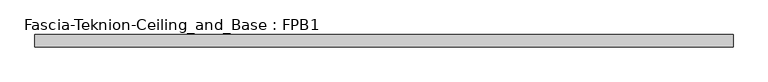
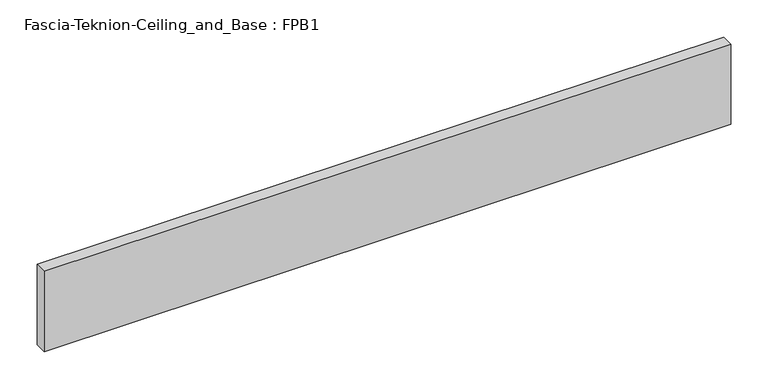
"""IFC4 building model written with IfcOpenShell, lengths in millimetres: proxy geometry, Fascia-Teknion-Ceiling_and_Base : FPB1."""

from ifc_helpers import new_model, si_unit, origin, origin_with_axes, place, context, project, spatial, polyline, outline, extrude, source, transform, mapped, element, save


def fascia_teknion_ceiling_and_base_fpb1_d3fc623d(model_context):
    return source(origin(), model_context, "Body", "SweptSolid", [
        extrude(outline(polyline([(535.9300781, 0.0), (535.9300781, -19.05), (-535.9300781, -19.05), (-535.9300781, 0.0), (535.9300781, 0.0)])), origin_with_axes(), (0.0, 0.0, 1.0), 132.08),
    ])


if __name__ == "__main__":
    model = new_model("IFC4")
    model_context = context("Model", 3, world=origin())
    ifc_project = project(units=[si_unit("LENGTHUNIT", "METRE", prefix="MILLI")], contexts=[model_context])
    site = spatial("IfcSite", under=ifc_project)
    building = spatial("IfcBuilding", under=site)
    placement = place(None, origin())
    fascia_teknion_ceiling_and_base_fpb1_shape = fascia_teknion_ceiling_and_base_fpb1_d3fc623d(model_context)
    element("IfcBuildingElementProxy", 1, Name="Fascia-Teknion-Ceiling_and_Base : FPB1", ObjectType="Fascia-Teknion-Ceiling_and_Base : FPB1", at=placement, inside=building, context=model_context, shape_type="MappedRepresentation", body=[
        mapped(fascia_teknion_ceiling_and_base_fpb1_shape, transform((0.0, 0.0, 0.0), x_axis=(1.0, 0.0, 0.0), y_axis=(0.0, 1.0, 0.0), z_axis=(0.0, 0.0, 1.0))),
    ])
    save(model, "model.ifc")
